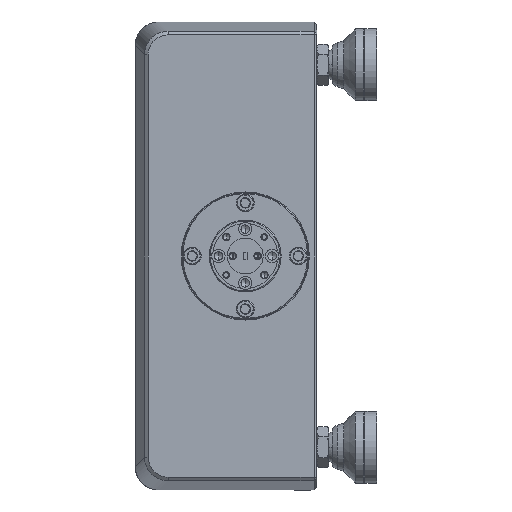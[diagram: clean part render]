
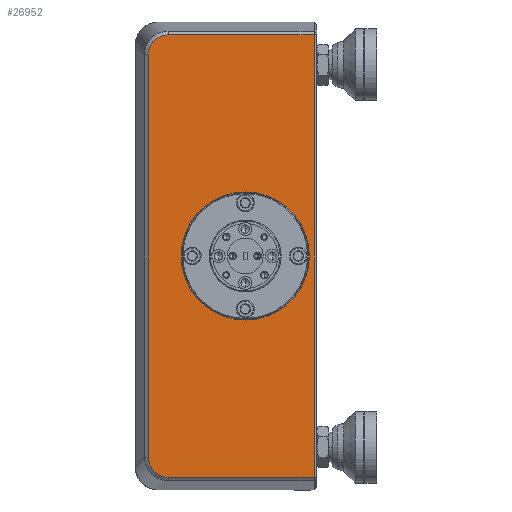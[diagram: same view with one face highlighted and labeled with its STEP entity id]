
A CAD part, left-side view. The second image highlights one B-rep face of the part: STEP entity #26952.
In plain terms, the highlighted planar face has unit normal (-1, 0, 0).
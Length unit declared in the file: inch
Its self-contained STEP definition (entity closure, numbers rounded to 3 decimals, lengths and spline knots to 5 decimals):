
#494 = ORIENTED_EDGE ( 'NONE', *, *, #31730, .T. ) ;
#790 = CARTESIAN_POINT ( 'NONE',  ( -2.75, -0.66628, 0. ) ) ;
#1420 = CARTESIAN_POINT ( 'NONE',  ( -2.75, -0.8752, 2.31232 ) ) ;
#1467 = DIRECTION ( 'NONE',  ( 0., 0., 1. ) ) ;
#1561 = VERTEX_POINT ( 'NONE', #39176 ) ;
#1636 = LINE ( 'NONE', #24270, #3436 ) ;
#1959 = CARTESIAN_POINT ( 'NONE',  ( -2.75, -1.48136, 2.31232 ) ) ;
#2269 = LINE ( 'NONE', #790, #42186 ) ;
#2319 = CARTESIAN_POINT ( 'NONE',  ( -2.75, -0.8752, 2.31232 ) ) ;
#2696 = CARTESIAN_POINT ( 'NONE',  ( -2.75, -0.67171, 2.15839 ) ) ;
#3083 = CARTESIAN_POINT ( 'NONE',  ( -2.75, -0.84772, 2.31233 ) ) ;
#3306 = DIRECTION ( 'NONE',  ( 1., 0., 0. ) ) ;
#3436 = VECTOR ( 'NONE', #70284, 39.37008 ) ;
#3677 = PLANE ( 'NONE',  #43048 ) ;
#5144 = VERTEX_POINT ( 'NONE', #22071 ) ;
#5967 = CARTESIAN_POINT ( 'NONE',  ( -2.75, -2.40136, 0. ) ) ;
#6688 = ORIENTED_EDGE ( 'NONE', *, *, #58196, .T. ) ;
#7122 = CARTESIAN_POINT ( 'NONE',  ( -2.75, -0.84766, -2.31233 ) ) ;
#9262 = VERTEX_POINT ( 'NONE', #55648 ) ;
#9508 = DIRECTION ( 'NONE',  ( 0., 0., 1. ) ) ;
#9517 = CARTESIAN_POINT ( 'NONE',  ( -2.75, -0.76974, 2.28609 ) ) ;
#10132 = AXIS2_PLACEMENT_3D ( 'NONE', #63040, #57386, #1467 ) ;
#10189 = CARTESIAN_POINT ( 'NONE',  ( -2.75, -0.8752, -2.31232 ) ) ;
#11489 = ORIENTED_EDGE ( 'NONE', *, *, #33276, .T. ) ;
#11875 = B_SPLINE_CURVE_WITH_KNOTS ( 'NONE', 3,
 ( #45274, #28280, #51268, #58059, #29023, #64043, #58799, #40281, #7122, #53126 ),
 .UNSPECIFIED., .F., .F.,
 ( 4, 2, 2, 2, 4 ),
 ( 0., 0.25, 0.5, 0.75, 1. ),
 .UNSPECIFIED. ) ;
#13682 = CARTESIAN_POINT ( 'NONE',  ( -2.75, -0.66628, 2.1034 ) ) ;
#16116 = ORIENTED_EDGE ( 'NONE', *, *, #65361, .T. ) ;
#18608 = LINE ( 'NONE', #1959, #32158 ) ;
#21467 = DIRECTION ( 'NONE',  ( 0., 0., -1. ) ) ;
#21602 = CIRCLE ( 'NONE', #66110, 0.67 ) ;
#22071 = CARTESIAN_POINT ( 'NONE',  ( -2.75, -0.66628, -2.1034 ) ) ;
#24270 = CARTESIAN_POINT ( 'NONE',  ( -2.75, -1.48136, -2.31232 ) ) ;
#26465 = DIRECTION ( 'NONE',  ( -1., 0., 0. ) ) ;
#26477 = CARTESIAN_POINT ( 'NONE',  ( -2.75, -0.82022, 2.30689 ) ) ;
#26952 = ADVANCED_FACE ( 'NONE', ( #49384, #33147 ), #3677, .F. ) ;
#28280 = CARTESIAN_POINT ( 'NONE',  ( -2.75, -0.66628, -2.13089 ) ) ;
#29023 = CARTESIAN_POINT ( 'NONE',  ( -2.75, -0.70801, -2.2321 ) ) ;
#29364 = DIRECTION ( 'NONE',  ( 0., 0., 1. ) ) ;
#31384 = CARTESIAN_POINT ( 'NONE',  ( -2.75, -1.68136, 0. ) ) ;
#31730 = EDGE_CURVE ( 'NONE', #1561, #9262, #58789, .T. ) ;
#31821 = VERTEX_POINT ( 'NONE', #65504 ) ;
#32089 = DIRECTION ( 'NONE',  ( 0., 1., 0. ) ) ;
#32158 = VECTOR ( 'NONE', #32089, 39.37008 ) ;
#33147 = FACE_BOUND ( 'NONE', #47342, .T. ) ;
#33276 = EDGE_CURVE ( 'NONE', #58972, #5144, #2269, .T. ) ;
#35418 = CIRCLE ( 'NONE', #10132, 0.67 ) ;
#38143 = CARTESIAN_POINT ( 'NONE',  ( -2.75, -0.69252, 2.20886 ) ) ;
#39176 = CARTESIAN_POINT ( 'NONE',  ( -2.75, -2.40136, -2.31232 ) ) ;
#39866 = EDGE_LOOP ( 'NONE', ( #43010, #16116, #494, #74379, #6688, #11489 ) ) ;
#40281 = CARTESIAN_POINT ( 'NONE',  ( -2.75, -0.82021, -2.30689 ) ) ;
#40323 = VERTEX_POINT ( 'NONE', #1420 ) ;
#41155 = DIRECTION ( 'NONE',  ( 0., 0., -1. ) ) ;
#42186 = VECTOR ( 'NONE', #41155, 39.37008 ) ;
#43010 = ORIENTED_EDGE ( 'NONE', *, *, #59277, .T. ) ;
#43048 = AXIS2_PLACEMENT_3D ( 'NONE', #71974, #3306, #21467 ) ;
#45274 = CARTESIAN_POINT ( 'NONE',  ( -2.75, -0.66628, -2.1034 ) ) ;
#45311 = B_SPLINE_CURVE_WITH_KNOTS ( 'NONE', 3,
 ( #2319, #3083, #26477, #9517, #71358, #66430, #38143, #2696, #61236, #13682 ),
 .UNSPECIFIED., .F., .F.,
 ( 4, 2, 2, 2, 4 ),
 ( 0., 0.25, 0.5, 0.75, 1. ),
 .UNSPECIFIED. ) ;
#46216 = VERTEX_POINT ( 'NONE', #48816 ) ;
#47342 = EDGE_LOOP ( 'NONE', ( #59354, #74070 ) ) ;
#48816 = CARTESIAN_POINT ( 'NONE',  ( -2.75, -1.68136, 0.67 ) ) ;
#49384 = FACE_OUTER_BOUND ( 'NONE', #39866, .T. ) ;
#49881 = CARTESIAN_POINT ( 'NONE',  ( -2.75, -0.66628, 2.1034 ) ) ;
#51268 = CARTESIAN_POINT ( 'NONE',  ( -2.75, -0.67172, -2.15839 ) ) ;
#53126 = CARTESIAN_POINT ( 'NONE',  ( -2.75, -0.8752, -2.31232 ) ) ;
#55648 = CARTESIAN_POINT ( 'NONE',  ( -2.75, -2.40136, 2.31232 ) ) ;
#56255 = VERTEX_POINT ( 'NONE', #10189 ) ;
#57386 = DIRECTION ( 'NONE',  ( -1., 0., 0. ) ) ;
#58059 = CARTESIAN_POINT ( 'NONE',  ( -2.75, -0.69251, -2.20886 ) ) ;
#58196 = EDGE_CURVE ( 'NONE', #40323, #58972, #45311, .T. ) ;
#58789 = LINE ( 'NONE', #5967, #65939 ) ;
#58799 = CARTESIAN_POINT ( 'NONE',  ( -2.75, -0.76974, -2.28609 ) ) ;
#58972 = VERTEX_POINT ( 'NONE', #49881 ) ;
#59277 = EDGE_CURVE ( 'NONE', #5144, #56255, #11875, .T. ) ;
#59354 = ORIENTED_EDGE ( 'NONE', *, *, #60022, .F. ) ;
#60022 = EDGE_CURVE ( 'NONE', #46216, #31821, #35418, .T. ) ;
#61236 = CARTESIAN_POINT ( 'NONE',  ( -2.75, -0.66628, 2.13095 ) ) ;
#61603 = EDGE_CURVE ( 'NONE', #9262, #40323, #18608, .T. ) ;
#63040 = CARTESIAN_POINT ( 'NONE',  ( -2.75, -1.68136, 0. ) ) ;
#64043 = CARTESIAN_POINT ( 'NONE',  ( -2.75, -0.7465, -2.27061 ) ) ;
#65361 = EDGE_CURVE ( 'NONE', #56255, #1561, #1636, .T. ) ;
#65504 = CARTESIAN_POINT ( 'NONE',  ( -2.75, -1.68136, -0.67 ) ) ;
#65939 = VECTOR ( 'NONE', #29364, 39.37008 ) ;
#66110 = AXIS2_PLACEMENT_3D ( 'NONE', #31384, #26465, #9508 ) ;
#66430 = CARTESIAN_POINT ( 'NONE',  ( -2.75, -0.708, 2.2321 ) ) ;
#66434 = EDGE_CURVE ( 'NONE', #31821, #46216, #21602, .T. ) ;
#70284 = DIRECTION ( 'NONE',  ( 0., -1., 0. ) ) ;
#71358 = CARTESIAN_POINT ( 'NONE',  ( -2.75, -0.74651, 2.2706 ) ) ;
#71974 = CARTESIAN_POINT ( 'NONE',  ( -2.75, -1.48136, 0. ) ) ;
#74070 = ORIENTED_EDGE ( 'NONE', *, *, #66434, .F. ) ;
#74379 = ORIENTED_EDGE ( 'NONE', *, *, #61603, .T. ) ;
